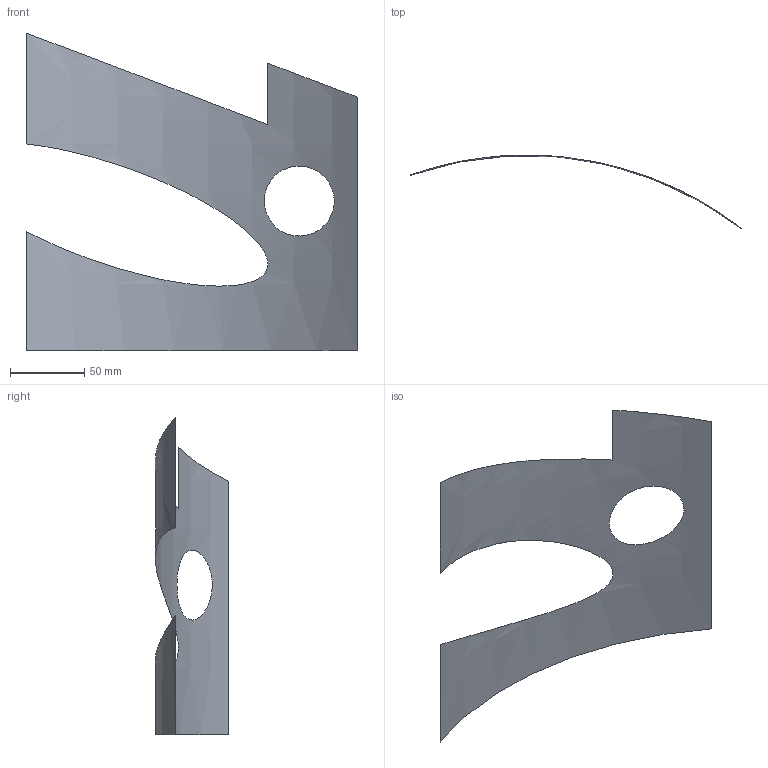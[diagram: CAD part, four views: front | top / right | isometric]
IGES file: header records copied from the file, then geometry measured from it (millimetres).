
Start section: SolidWorks IGES file using analytic representation for surfaces
Global section: file name: C:\Documents and Settings\Pedro Santana.SANTANA2\My Documents\SP\Products\Advanced Concepts\Advanced Concepts - Parts\SW Files\Surfacing\Part1.IGS; native system: SolidWorks 2005 by SolidWorks Corporation; preprocessor: SolidWorks 2005 by SolidWorks Corporation; author: Pedro Santana; date: 050714.091513; units: inch
Bounding box: 222.45 x 49.4 x 213.61 mm (x, y, z)
Surface area: 31246.9 mm2 (no closed solid volume)
Topology: 0 solids, 0 shells, 1 faces, 87 edges, 87 vertices
Faces by surface type: revolution 1
